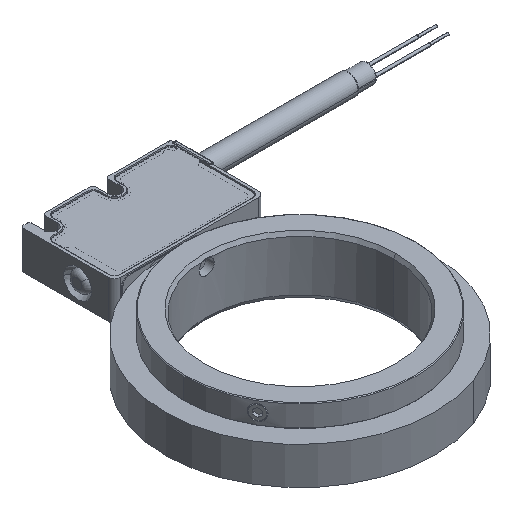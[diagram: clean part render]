
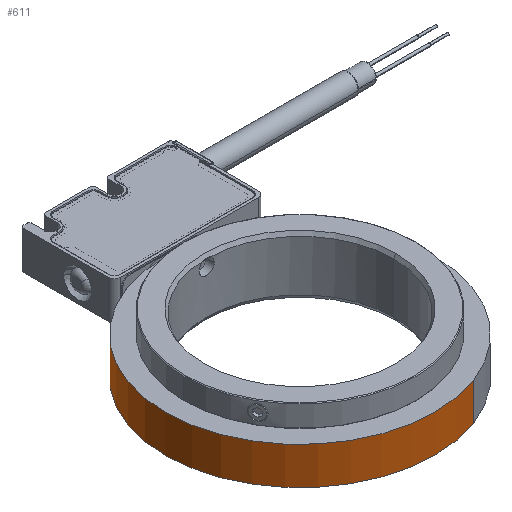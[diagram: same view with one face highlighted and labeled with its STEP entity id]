
A CAD part, isometric view. The second image highlights one B-rep face of the part: STEP entity #611.
In plain terms, the highlighted cylindrical face has radius 36 mm (diameter 72 mm), a partial arc.
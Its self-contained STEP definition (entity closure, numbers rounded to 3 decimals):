
#137 = CIRCLE ( 'NONE', #9111, 36. ) ;
#273 = AXIS2_PLACEMENT_3D ( 'NONE', #6988, #9046, #5013 ) ;
#611 = ADVANCED_FACE ( 'NONE', ( #1956 ), #4970, .T. ) ;
#1241 = CARTESIAN_POINT ( 'NONE',  ( -12.594, 28.965, 10.05 ) ) ;
#1480 = VECTOR ( 'NONE', #5761, 1000. ) ;
#1801 = CARTESIAN_POINT ( 'NONE',  ( -12.594, 28.965, 10.05 ) ) ;
#1956 = FACE_OUTER_BOUND ( 'NONE', #7468, .T. ) ;
#1982 = VERTEX_POINT ( 'NONE', #4330 ) ;
#2146 = EDGE_CURVE ( 'NONE', #9547, #8432, #137, .T. ) ;
#2374 = DIRECTION ( 'NONE',  ( 0., 0., 1. ) ) ;
#2714 = CARTESIAN_POINT ( 'NONE',  ( 0., -4.76, 0.05 ) ) ;
#2737 = EDGE_CURVE ( 'NONE', #9547, #4386, #4874, .T. ) ;
#2815 = EDGE_CURVE ( 'NONE', #8432, #1982, #3463, .T. ) ;
#3321 = ORIENTED_EDGE ( 'NONE', *, *, #2146, .F. ) ;
#3453 = DIRECTION ( 'NONE',  ( -0.35, 0.937, 0. ) ) ;
#3463 = LINE ( 'NONE', #8669, #1480 ) ;
#4065 = CARTESIAN_POINT ( 'NONE',  ( -12.594, 28.965, 0.05 ) ) ;
#4330 = CARTESIAN_POINT ( 'NONE',  ( 12.594, -38.485, 0.05 ) ) ;
#4386 = VERTEX_POINT ( 'NONE', #4065 ) ;
#4481 = ORIENTED_EDGE ( 'NONE', *, *, #2815, .F. ) ;
#4742 = CARTESIAN_POINT ( 'NONE',  ( 12.594, -38.485, 10.05 ) ) ;
#4763 = CIRCLE ( 'NONE', #9516, 36. ) ;
#4874 = LINE ( 'NONE', #1801, #9628 ) ;
#4970 = CYLINDRICAL_SURFACE ( 'NONE', #273, 36. ) ;
#5013 = DIRECTION ( 'NONE',  ( 0.35, -0.937, 0. ) ) ;
#5761 = DIRECTION ( 'NONE',  ( 0., 0., -1. ) ) ;
#6835 = CARTESIAN_POINT ( 'NONE',  ( 0., -4.76, 10.05 ) ) ;
#6988 = CARTESIAN_POINT ( 'NONE',  ( 0., -4.76, 10.05 ) ) ;
#7007 = ORIENTED_EDGE ( 'NONE', *, *, #7399, .T. ) ;
#7018 = DIRECTION ( 'NONE',  ( 0., 0., -1. ) ) ;
#7399 = EDGE_CURVE ( 'NONE', #4386, #1982, #4763, .T. ) ;
#7468 = EDGE_LOOP ( 'NONE', ( #3321, #8140, #7007, #4481 ) ) ;
#7571 = DIRECTION ( 'NONE',  ( -0.35, 0.937, 0. ) ) ;
#7918 = DIRECTION ( 'NONE',  ( 0., 0., 1. ) ) ;
#8140 = ORIENTED_EDGE ( 'NONE', *, *, #2737, .T. ) ;
#8432 = VERTEX_POINT ( 'NONE', #4742 ) ;
#8669 = CARTESIAN_POINT ( 'NONE',  ( 12.594, -38.485, 10.05 ) ) ;
#9046 = DIRECTION ( 'NONE',  ( 0., 0., -1. ) ) ;
#9111 = AXIS2_PLACEMENT_3D ( 'NONE', #6835, #2374, #7571 ) ;
#9516 = AXIS2_PLACEMENT_3D ( 'NONE', #2714, #7918, #3453 ) ;
#9547 = VERTEX_POINT ( 'NONE', #1241 ) ;
#9628 = VECTOR ( 'NONE', #7018, 1000. ) ;
